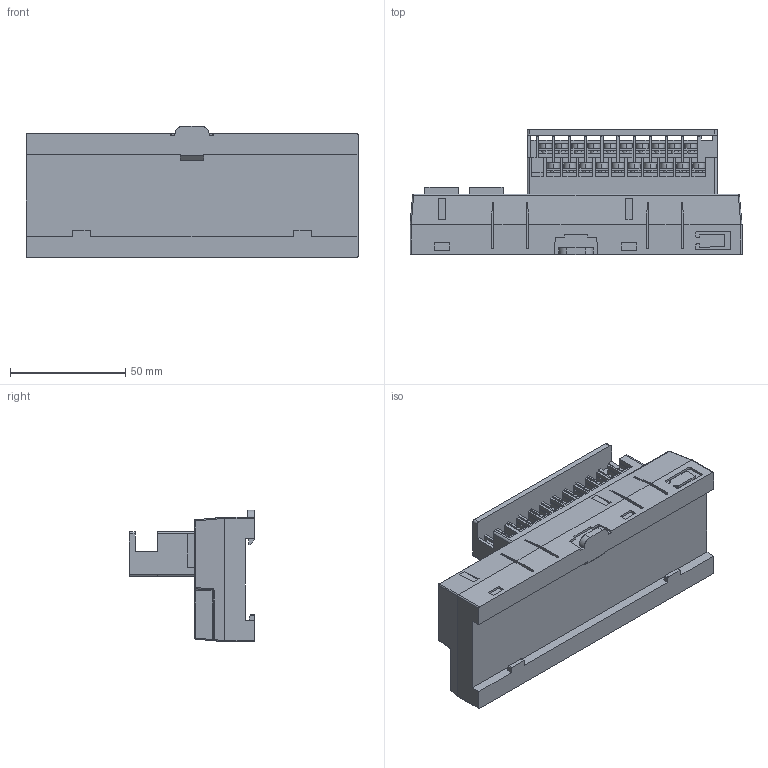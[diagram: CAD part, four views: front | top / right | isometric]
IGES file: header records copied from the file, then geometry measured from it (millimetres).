
Start section: SolidWorks IGES file using analytic representation for surfaces
Global section: file name: C:\Users\kawanishi.SHINKO-TECHNOS\かわにし\3D データ\RG-CU\Dxx-xxx\HP_3D\RG-CU_iges\RG-CU-16_221114.IGS; native system: SolidWorks 2022; preprocessor: SolidWorks 2022; author: kawanishi; date: 251119.152516; units: millimetre
Bounding box: 144 x 54.3 x 57.01 mm (x, y, z)
Surface area: 43598.9 mm2 (no closed solid volume)
Topology: 0 solids, 0 shells, 1096 faces, 9231 edges, 9229 vertices
Faces by surface type: bspline 971, revolution 125
